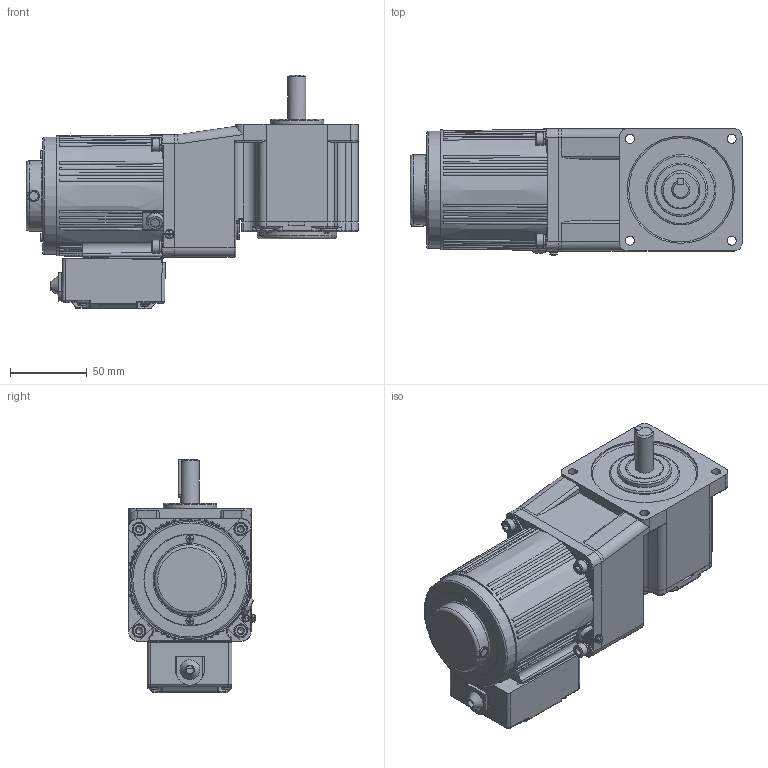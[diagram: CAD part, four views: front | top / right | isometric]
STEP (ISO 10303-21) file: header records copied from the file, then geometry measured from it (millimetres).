
FILE_DESCRIPTION(/* description */ (''),/* implementation_level */ '2;1');
FILE_NAME(/* name */ '80+中实直角-调速-25-40W 新版长款接线盒.stp',/* time_stamp */ '2025-03-30T13:31:59+08:00',/* author */ (''),/* organization */ (''),/* preprocessor_version */ 'ST-DEVELOPER v18.102',/* originating_system */ 'SIEMENS PLM Software NX 2027',/* authorisation */ '');
FILE_SCHEMA (('AP203_CONFIGURATION_CONTROLLED_3D_DESIGN_OF_MECHANICAL_PARTS_AND_ASSEMBLIES_MIM_LF { 1 0 10303 403 2 1 2}'));
Products named in the file (1): 80+中实直角-调速-25-40W 新版_
stp_objects
Bounding box: 217 x 82.78 x 152.84 mm (x, y, z)
Volume: 1165058.8 mm3; surface area: 152272.6 mm2
Topology: 16 solids, 16 shells, 1624 faces, 4071 edges, 2542 vertices
Faces by surface type: plane 726, cylinder 478, torus 139, bspline 135, cone 110, sphere 36
Full cylindrical faces by diameter (mm): 2.2 x2, 2.6 x1, 2.7 x1, 2.9 x4, 3.2 x1, 3.5 x2, 4.2 x5, 4.4 x1, 4.8 x1, 4.826 x4, 5 x9, 5.1 x3, 5.3 x4, 5.6 x4, 5.8 x1, 6 x12, 7 x1, 7.4 x1, 8 x5, 8.2 x1, 8.5 x4, 9 x4, 10 x2, 10.5 x1, 12 x1, 19 x1, 25 x1, 26 x1, 35 x1, 46 x2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
Entity records: 54798 total; most frequent: CARTESIAN_POINT 18239, ORIENTED_EDGE 7564, DIRECTION 7177, EDGE_CURVE 3782, AXIS2_PLACEMENT_3D 2760, VERTEX_POINT 2458, EDGE_LOOP 1921, LINE 1657
